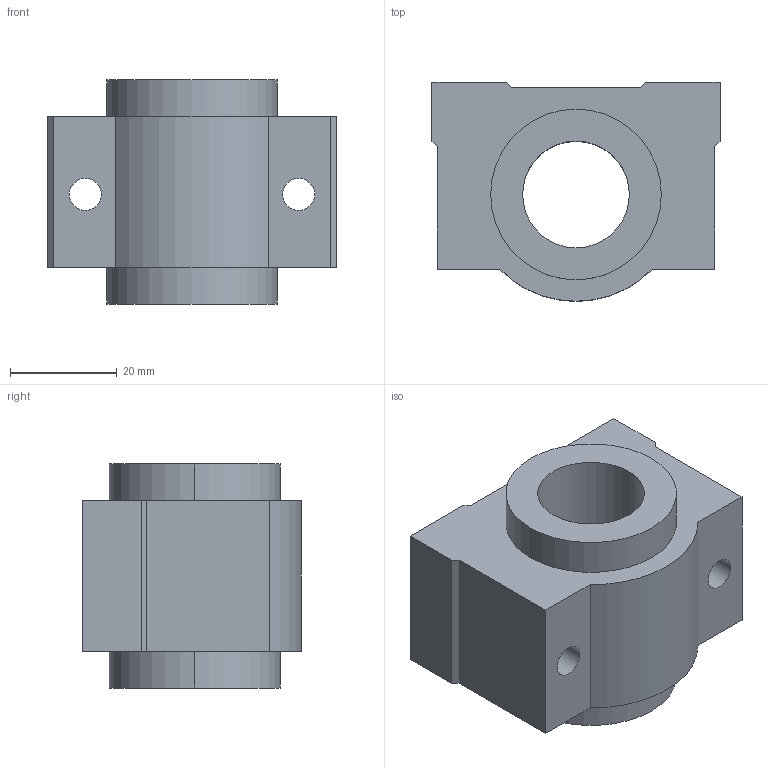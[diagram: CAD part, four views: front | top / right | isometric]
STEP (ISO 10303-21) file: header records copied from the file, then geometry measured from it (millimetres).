
FILE_DESCRIPTION((''),'2;1');
FILE_NAME('C:\Documents and Settings\ｿﾀﾀ蠑ｷ1\ｹﾙﾅﾁ ﾈｭｸ饅\ｺﾎﾇｰﾆﾄﾀﾏ\ﾁｦﾇｰ\SCE__VUU\SCE20VUU.stp','2005-06-22T15:11:41',('ｿﾀﾀ蠑ｷ1'),(''),'Autodesk Inventor 9','Autodesk Inventor 9','');
FILE_SCHEMA(('AUTOMOTIVE_DESIGN { 1 0 10303 214 1 1 1 1 }'));
Length unit declared in the file: millimetre
Products named in the file (1): SCE__VUU
Bounding box: 54 x 41 x 42 mm (x, y, z)
Volume: 50638.9 mm3; surface area: 13586.1 mm2
Topology: 1 solids, 1 shells, 28 faces, 72 edges, 48 vertices
Faces by surface type: plane 17, cylinder 7, bspline 4
Entity records: 945 total; most frequent: CARTESIAN_POINT 217, DIRECTION 144, ORIENTED_EDGE 144, EDGE_CURVE 72, VECTOR 50, LINE 50, VERTEX_POINT 48, AXIS2_PLACEMENT_3D 47
